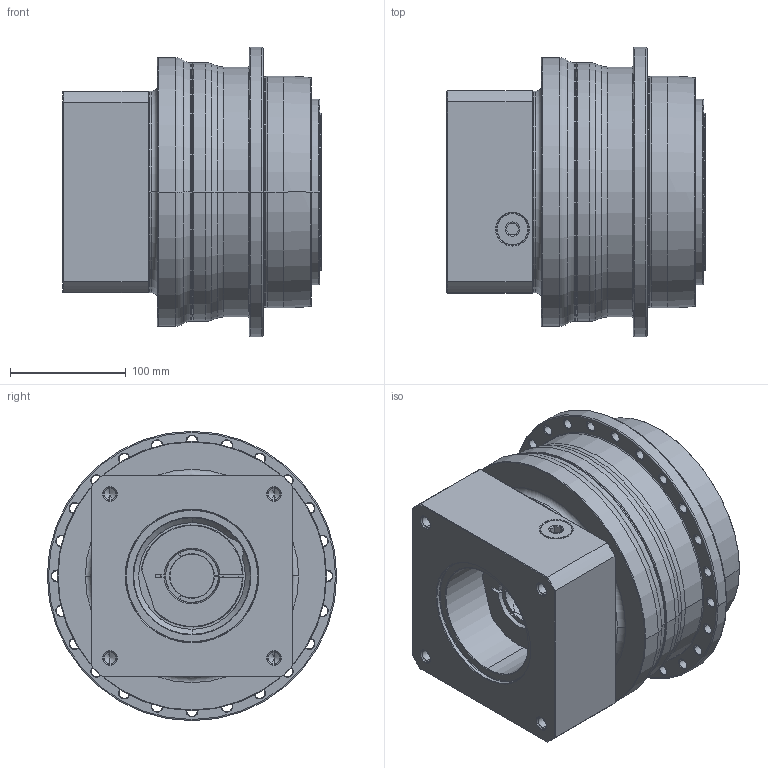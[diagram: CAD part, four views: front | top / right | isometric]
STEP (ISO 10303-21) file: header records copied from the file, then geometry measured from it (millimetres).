
FILE_DESCRIPTION((''),'2;1');
FILE_NAME('AP200_1ST_38-P0409910201_ASM','2018-05-25T',('d01226'),(''),'PRO/ENGINEER BY PARAMETRIC TECHNOLOGY CORPORATION, 2008410','PRO/ENGINEER BY PARAMETRIC TECHNOLOGY CORPORATION, 2008410','');
FILE_SCHEMA(('CONFIG_CONTROL_DESIGN'));
Length unit declared in the file: millimetre
Products named in the file (9): P0278601003; P0359601103; P1318610201; P0503900012; P0912652001; P1211600001; P0409910201; 21711422019; AP200_1ST_38-P0409910201_ASM
Assembly tree (8 placements, depth 2):
  AP200_1ST_38-P0409910201_ASM
    P0278601003
    P0359601103
    P1318610201
    P0503900012
    P0912652001
    P1211600001
    P0409910201
    21711422019
Bounding box: 222.5 x 249.5 x 249.5 mm (x, y, z)
Volume: 6588817.3 mm3; surface area: 579752.6 mm2
Topology: 9 solids, 34 shells, 643 faces, 1542 edges, 954 vertices
Faces by surface type: cylinder 272, cone 178, plane 108, torus 71, bspline 14
Entity records: 23817 total; most frequent: CARTESIAN_POINT 8063, DIRECTION 3617, ORIENTED_EDGE 2966, AXIS2_PLACEMENT_3D 1551, EDGE_CURVE 1534, VERTEX_POINT 954, CIRCLE 895, EDGE_LOOP 784
